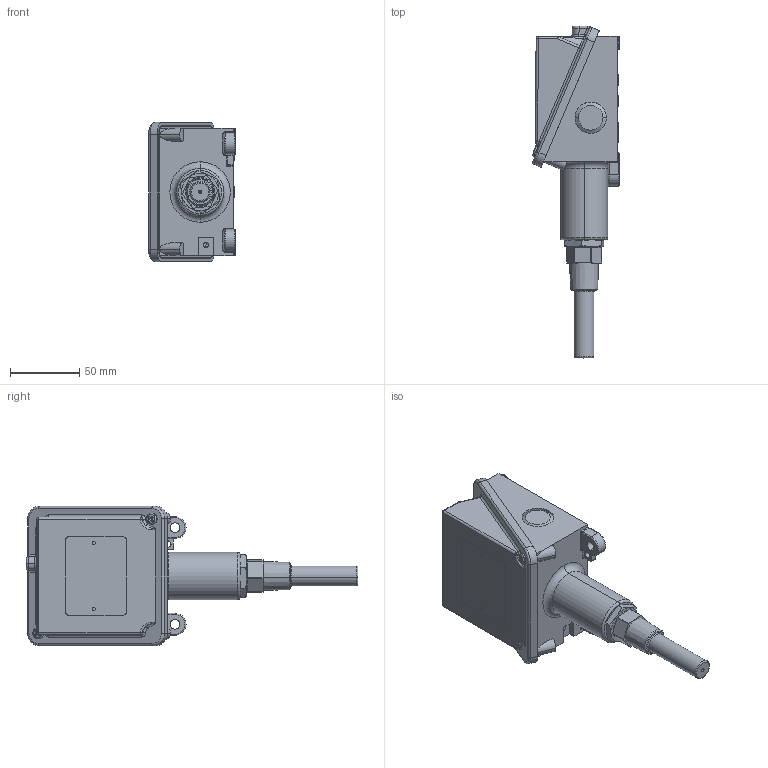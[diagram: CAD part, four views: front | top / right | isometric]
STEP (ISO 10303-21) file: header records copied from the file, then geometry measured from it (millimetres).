
FILE_DESCRIPTION (( 'STEP AP214' ), '1' );
FILE_NAME ('B100-120_121_V5.STEP', '2025-02-21T14:22:31', ( '' ), ( '' ), 'SwSTEP 2.0', 'SolidWorks 2023', '' );
FILE_SCHEMA (( 'AUTOMOTIVE_DESIGN' ));
Length unit declared in the file: inch
Products named in the file (1): B100-120_121_V5
Bounding box: 62.62 x 239.74 x 100.84 mm (x, y, z)
Volume: 193609.7 mm3; surface area: 121824.8 mm2
Topology: 8 solids, 8 shells, 874 faces, 2062 edges, 1217 vertices
Faces by surface type: cylinder 367, plane 260, torus 113, cone 62, bspline 36, sphere 36
Entity records: 26343 total; most frequent: CARTESIAN_POINT 6124, DIRECTION 4511, ORIENTED_EDGE 4036, EDGE_CURVE 2018, AXIS2_PLACEMENT_3D 1794, VERTEX_POINT 1217, EDGE_LOOP 957, CIRCLE 955
